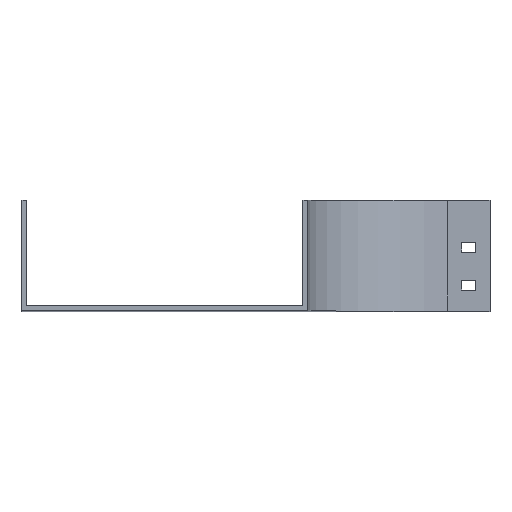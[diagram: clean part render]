
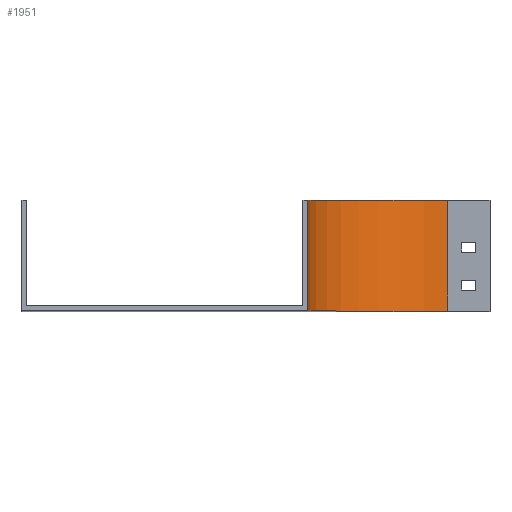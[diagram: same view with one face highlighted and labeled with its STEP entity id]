
A CAD part, top view. The second image highlights one B-rep face of the part: STEP entity #1951.
In plain terms, the highlighted cylindrical face has radius 100 mm (diameter 200 mm), a partial arc.
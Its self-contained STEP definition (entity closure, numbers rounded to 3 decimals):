
#48 = CARTESIAN_POINT ( 'NONE',  ( 0., 79., 0. ) ) ;
#97 = CARTESIAN_POINT ( 'NONE',  ( -100., 79., 0. ) ) ;
#161 = DIRECTION ( 'NONE',  ( 0., 0., -1. ) ) ;
#201 = ORIENTED_EDGE ( 'NONE', *, *, #852, .T. ) ;
#337 = DIRECTION ( 'NONE',  ( 0., -1., 0. ) ) ;
#339 = AXIS2_PLACEMENT_3D ( 'NONE', #579, #1835, #161 ) ;
#347 = CARTESIAN_POINT ( 'NONE',  ( -100., 0., 0. ) ) ;
#573 = CARTESIAN_POINT ( 'NONE',  ( 0., 0., 0. ) ) ;
#578 = ORIENTED_EDGE ( 'NONE', *, *, #2528, .F. ) ;
#579 = CARTESIAN_POINT ( 'NONE',  ( 0., 79., 0. ) ) ;
#661 = CARTESIAN_POINT ( 'NONE',  ( 0., 79., -100. ) ) ;
#766 = VERTEX_POINT ( 'NONE', #1331 ) ;
#787 = CIRCLE ( 'NONE', #339, 100. ) ;
#844 = VERTEX_POINT ( 'NONE', #2689 ) ;
#852 = EDGE_CURVE ( 'NONE', #2747, #766, #2021, .T. ) ;
#972 = VERTEX_POINT ( 'NONE', #1926 ) ;
#1096 = CYLINDRICAL_SURFACE ( 'NONE', #1743, 100. ) ;
#1099 = DIRECTION ( 'NONE',  ( 0., -1., 0. ) ) ;
#1254 = ORIENTED_EDGE ( 'NONE', *, *, #2246, .T. ) ;
#1316 = DIRECTION ( 'NONE',  ( 0., 0., -1. ) ) ;
#1325 = EDGE_CURVE ( 'NONE', #972, #844, #787, .T. ) ;
#1331 = CARTESIAN_POINT ( 'NONE',  ( 0., 0., -100. ) ) ;
#1422 = VECTOR ( 'NONE', #337, 1000. ) ;
#1569 = LINE ( 'NONE', #97, #1422 ) ;
#1672 = EDGE_LOOP ( 'NONE', ( #201, #578, #2757, #1254 ) ) ;
#1743 = AXIS2_PLACEMENT_3D ( 'NONE', #48, #2373, #1316 ) ;
#1796 = AXIS2_PLACEMENT_3D ( 'NONE', #573, #2249, #2674 ) ;
#1835 = DIRECTION ( 'NONE',  ( 0., -1., 0. ) ) ;
#1926 = CARTESIAN_POINT ( 'NONE',  ( -100., 79., 0. ) ) ;
#1951 = ADVANCED_FACE ( 'NONE', ( #2404 ), #1096, .F. ) ;
#2021 = CIRCLE ( 'NONE', #1796, 100. ) ;
#2135 = VECTOR ( 'NONE', #1099, 1000. ) ;
#2246 = EDGE_CURVE ( 'NONE', #972, #2747, #1569, .T. ) ;
#2249 = DIRECTION ( 'NONE',  ( 0., -1., 0. ) ) ;
#2321 = LINE ( 'NONE', #661, #2135 ) ;
#2373 = DIRECTION ( 'NONE',  ( 0., -1., 0. ) ) ;
#2404 = FACE_OUTER_BOUND ( 'NONE', #1672, .T. ) ;
#2528 = EDGE_CURVE ( 'NONE', #844, #766, #2321, .T. ) ;
#2674 = DIRECTION ( 'NONE',  ( 0., 0., -1. ) ) ;
#2689 = CARTESIAN_POINT ( 'NONE',  ( 0., 79., -100. ) ) ;
#2747 = VERTEX_POINT ( 'NONE', #347 ) ;
#2757 = ORIENTED_EDGE ( 'NONE', *, *, #1325, .F. ) ;
